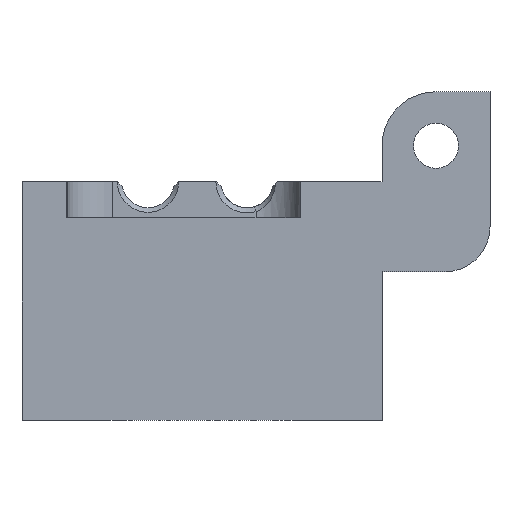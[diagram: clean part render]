
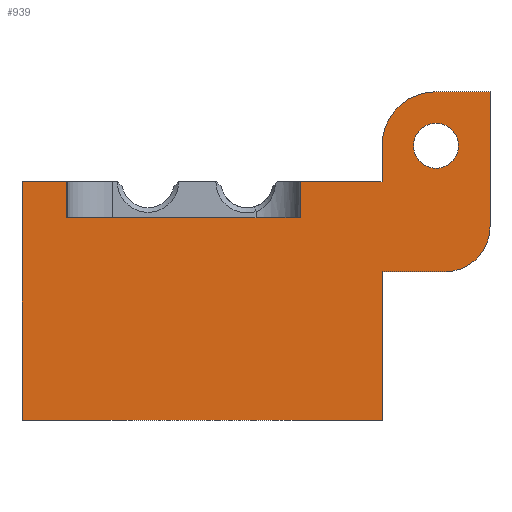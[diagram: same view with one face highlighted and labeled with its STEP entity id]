
A CAD part, left-side view. The second image highlights one B-rep face of the part: STEP entity #939.
In plain terms, the highlighted planar face has unit normal (-1, 0, 0).
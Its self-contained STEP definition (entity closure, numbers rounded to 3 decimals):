
#10 = DIRECTION ( 'NONE',  ( 0., -1., 0. ) ) ;
#58 = CARTESIAN_POINT ( 'NONE',  ( -20., 15., -4. ) ) ;
#63 = VECTOR ( 'NONE', #522, 1000. ) ;
#66 = DIRECTION ( 'NONE',  ( -1., 0., 0. ) ) ;
#67 = DIRECTION ( 'NONE',  ( 0., 0., -1. ) ) ;
#68 = EDGE_CURVE ( 'NONE', #1806, #806, #2099, .T. ) ;
#80 = CARTESIAN_POINT ( 'NONE',  ( -20., 15., -4. ) ) ;
#120 = VERTEX_POINT ( 'NONE', #2115 ) ;
#137 = EDGE_CURVE ( 'NONE', #698, #120, #2403, .T. ) ;
#153 = EDGE_CURVE ( 'NONE', #1839, #806, #821, .T. ) ;
#175 = DIRECTION ( 'NONE',  ( 0., 0., 1. ) ) ;
#179 = FACE_OUTER_BOUND ( 'NONE', #1943, .T. ) ;
#213 = VECTOR ( 'NONE', #1474, 1000. ) ;
#225 = CARTESIAN_POINT ( 'NONE',  ( -20., -32., 10. ) ) ;
#226 = CIRCLE ( 'NONE', #597, 2.5 ) ;
#241 = VERTEX_POINT ( 'NONE', #1318 ) ;
#247 = CARTESIAN_POINT ( 'NONE',  ( -20., 20., -26.5 ) ) ;
#248 = CARTESIAN_POINT ( 'NONE',  ( -20., -26., 4. ) ) ;
#255 = ORIENTED_EDGE ( 'NONE', *, *, #1696, .T. ) ;
#268 = CARTESIAN_POINT ( 'NONE',  ( -20., -20., 10. ) ) ;
#275 = VECTOR ( 'NONE', #67, 1000. ) ;
#280 = EDGE_CURVE ( 'NONE', #1220, #408, #1706, .T. ) ;
#300 = CARTESIAN_POINT ( 'NONE',  ( -20., -32., 10. ) ) ;
#312 = CARTESIAN_POINT ( 'NONE',  ( -20., -32., -10. ) ) ;
#404 = VECTOR ( 'NONE', #2123, 1000. ) ;
#408 = VERTEX_POINT ( 'NONE', #1849 ) ;
#409 = VERTEX_POINT ( 'NONE', #1639 ) ;
#425 = DIRECTION ( 'NONE',  ( 0., -1., 0. ) ) ;
#429 = DIRECTION ( 'NONE',  ( 0., 1., 0. ) ) ;
#431 = EDGE_CURVE ( 'NONE', #1360, #1859, #1561, .T. ) ;
#432 = CARTESIAN_POINT ( 'NONE',  ( -20., 20., 0. ) ) ;
#458 = DIRECTION ( 'NONE',  ( 0., -1., 0. ) ) ;
#464 = CARTESIAN_POINT ( 'NONE',  ( -20., -26., 4. ) ) ;
#470 = LINE ( 'NONE', #484, #404 ) ;
#471 = PLANE ( 'NONE',  #2174 ) ;
#484 = CARTESIAN_POINT ( 'NONE',  ( -20., -11., -4. ) ) ;
#522 = DIRECTION ( 'NONE',  ( 0., 0., 1. ) ) ;
#536 = ORIENTED_EDGE ( 'NONE', *, *, #2464, .T. ) ;
#585 = ORIENTED_EDGE ( 'NONE', *, *, #1652, .F. ) ;
#588 = CARTESIAN_POINT ( 'NONE',  ( -20., 20., -26.5 ) ) ;
#597 = AXIS2_PLACEMENT_3D ( 'NONE', #2428, #1195, #2639 ) ;
#664 = ORIENTED_EDGE ( 'NONE', *, *, #1298, .F. ) ;
#674 = DIRECTION ( 'NONE',  ( 0., 0., -1. ) ) ;
#698 = VERTEX_POINT ( 'NONE', #2167 ) ;
#757 = CARTESIAN_POINT ( 'NONE',  ( -20., 20., 0. ) ) ;
#765 = EDGE_CURVE ( 'NONE', #1935, #241, #2320, .T. ) ;
#806 = VERTEX_POINT ( 'NONE', #1239 ) ;
#820 = LINE ( 'NONE', #247, #1293 ) ;
#821 = LINE ( 'NONE', #1281, #213 ) ;
#877 = CARTESIAN_POINT ( 'NONE',  ( -20., 20., -26.5 ) ) ;
#927 = CARTESIAN_POINT ( 'NONE',  ( -20., -20., -26.5 ) ) ;
#939 = ADVANCED_FACE ( 'NONE', ( #1868, #179 ), #471, .T. ) ;
#964 = CARTESIAN_POINT ( 'NONE',  ( -20., -20., -26.5 ) ) ;
#1067 = VECTOR ( 'NONE', #175, 1000. ) ;
#1070 = ORIENTED_EDGE ( 'NONE', *, *, #137, .T. ) ;
#1085 = DIRECTION ( 'NONE',  ( 0., 0., 1. ) ) ;
#1103 = CARTESIAN_POINT ( 'NONE',  ( -20., 15., -4. ) ) ;
#1171 = CARTESIAN_POINT ( 'NONE',  ( -20., -27., -5. ) ) ;
#1195 = DIRECTION ( 'NONE',  ( 1., 0., 0. ) ) ;
#1215 = AXIS2_PLACEMENT_3D ( 'NONE', #248, #1673, #458 ) ;
#1220 = VERTEX_POINT ( 'NONE', #964 ) ;
#1234 = ORIENTED_EDGE ( 'NONE', *, *, #2645, .T. ) ;
#1239 = CARTESIAN_POINT ( 'NONE',  ( -20., 15., 0. ) ) ;
#1267 = CIRCLE ( 'NONE', #1729, 2.5 ) ;
#1281 = CARTESIAN_POINT ( 'NONE',  ( -20., 20., 0. ) ) ;
#1293 = VECTOR ( 'NONE', #1464, 1000. ) ;
#1298 = EDGE_CURVE ( 'NONE', #1738, #1839, #2092, .T. ) ;
#1315 = VERTEX_POINT ( 'NONE', #2640 ) ;
#1318 = CARTESIAN_POINT ( 'NONE',  ( -20., -32., -5. ) ) ;
#1347 = CARTESIAN_POINT ( 'NONE',  ( -20., -27., -10. ) ) ;
#1349 = ORIENTED_EDGE ( 'NONE', *, *, #68, .T. ) ;
#1360 = VERTEX_POINT ( 'NONE', #300 ) ;
#1423 = VECTOR ( 'NONE', #1709, 1000. ) ;
#1432 = ORIENTED_EDGE ( 'NONE', *, *, #431, .T. ) ;
#1455 = ORIENTED_EDGE ( 'NONE', *, *, #1546, .T. ) ;
#1464 = DIRECTION ( 'NONE',  ( 0., -1., 0. ) ) ;
#1474 = DIRECTION ( 'NONE',  ( 0., -1., 0. ) ) ;
#1482 = VECTOR ( 'NONE', #1085, 1000. ) ;
#1488 = DIRECTION ( 'NONE',  ( 0., -1., 0. ) ) ;
#1491 = VECTOR ( 'NONE', #429, 1000. ) ;
#1506 = CARTESIAN_POINT ( 'NONE',  ( -20., -26., 1.5 ) ) ;
#1524 = LINE ( 'NONE', #432, #2573 ) ;
#1546 = EDGE_CURVE ( 'NONE', #1859, #698, #2496, .T. ) ;
#1561 = LINE ( 'NONE', #225, #1491 ) ;
#1572 = ORIENTED_EDGE ( 'NONE', *, *, #1634, .F. ) ;
#1578 = EDGE_CURVE ( 'NONE', #2117, #2602, #1267, .T. ) ;
#1634 = EDGE_CURVE ( 'NONE', #409, #1315, #470, .T. ) ;
#1639 = CARTESIAN_POINT ( 'NONE',  ( -20., -11., -4. ) ) ;
#1643 = CARTESIAN_POINT ( 'NONE',  ( -20., -20., -10. ) ) ;
#1652 = EDGE_CURVE ( 'NONE', #1806, #409, #1976, .T. ) ;
#1673 = DIRECTION ( 'NONE',  ( -1., 0., 0. ) ) ;
#1686 = ORIENTED_EDGE ( 'NONE', *, *, #2204, .F. ) ;
#1688 = LINE ( 'NONE', #312, #63 ) ;
#1696 = EDGE_CURVE ( 'NONE', #1738, #1220, #820, .T. ) ;
#1706 = LINE ( 'NONE', #927, #2636 ) ;
#1709 = DIRECTION ( 'NONE',  ( 0., -1., 0. ) ) ;
#1729 = AXIS2_PLACEMENT_3D ( 'NONE', #464, #1896, #674 ) ;
#1738 = VERTEX_POINT ( 'NONE', #2101 ) ;
#1806 = VERTEX_POINT ( 'NONE', #80 ) ;
#1810 = ORIENTED_EDGE ( 'NONE', *, *, #280, .T. ) ;
#1834 = CARTESIAN_POINT ( 'NONE',  ( -20., -26., 6.5 ) ) ;
#1839 = VERTEX_POINT ( 'NONE', #757 ) ;
#1843 = ORIENTED_EDGE ( 'NONE', *, *, #765, .T. ) ;
#1849 = CARTESIAN_POINT ( 'NONE',  ( -20., -20., -10. ) ) ;
#1859 = VERTEX_POINT ( 'NONE', #2145 ) ;
#1864 = DIRECTION ( 'NONE',  ( 0., -1., 0. ) ) ;
#1868 = FACE_BOUND ( 'NONE', #2597, .T. ) ;
#1896 = DIRECTION ( 'NONE',  ( 1., 0., 0. ) ) ;
#1915 = ORIENTED_EDGE ( 'NONE', *, *, #153, .F. ) ;
#1935 = VERTEX_POINT ( 'NONE', #1347 ) ;
#1943 = EDGE_LOOP ( 'NONE', ( #1432, #1455, #1070, #1686, #1572, #585, #1349, #1915, #664, #255, #1810, #1234, #1843, #2244 ) ) ;
#1949 = LINE ( 'NONE', #1643, #2446 ) ;
#1976 = LINE ( 'NONE', #1103, #1423 ) ;
#2086 = DIRECTION ( 'NONE',  ( -1., 0., 0. ) ) ;
#2092 = LINE ( 'NONE', #588, #1067 ) ;
#2099 = LINE ( 'NONE', #58, #1482 ) ;
#2101 = CARTESIAN_POINT ( 'NONE',  ( -20., 20., -26.5 ) ) ;
#2115 = CARTESIAN_POINT ( 'NONE',  ( -20., -20., 0. ) ) ;
#2117 = VERTEX_POINT ( 'NONE', #1506 ) ;
#2123 = DIRECTION ( 'NONE',  ( 0., 0., 1. ) ) ;
#2129 = ORIENTED_EDGE ( 'NONE', *, *, #1578, .T. ) ;
#2145 = CARTESIAN_POINT ( 'NONE',  ( -20., -26., 10. ) ) ;
#2167 = CARTESIAN_POINT ( 'NONE',  ( -20., -20., 4. ) ) ;
#2174 = AXIS2_PLACEMENT_3D ( 'NONE', #877, #66, #1488 ) ;
#2204 = EDGE_CURVE ( 'NONE', #1315, #120, #1524, .T. ) ;
#2244 = ORIENTED_EDGE ( 'NONE', *, *, #2270, .T. ) ;
#2270 = EDGE_CURVE ( 'NONE', #241, #1360, #1688, .T. ) ;
#2320 = CIRCLE ( 'NONE', #2652, 5. ) ;
#2362 = DIRECTION ( 'NONE',  ( 0., 0., 1. ) ) ;
#2403 = LINE ( 'NONE', #268, #275 ) ;
#2428 = CARTESIAN_POINT ( 'NONE',  ( -20., -26., 4. ) ) ;
#2446 = VECTOR ( 'NONE', #425, 1000. ) ;
#2464 = EDGE_CURVE ( 'NONE', #2602, #2117, #226, .T. ) ;
#2496 = CIRCLE ( 'NONE', #1215, 6. ) ;
#2573 = VECTOR ( 'NONE', #1864, 1000. ) ;
#2597 = EDGE_LOOP ( 'NONE', ( #2129, #536 ) ) ;
#2602 = VERTEX_POINT ( 'NONE', #1834 ) ;
#2636 = VECTOR ( 'NONE', #2362, 1000. ) ;
#2639 = DIRECTION ( 'NONE',  ( 0., 0., -1. ) ) ;
#2640 = CARTESIAN_POINT ( 'NONE',  ( -20., -11., 0. ) ) ;
#2645 = EDGE_CURVE ( 'NONE', #408, #1935, #1949, .T. ) ;
#2652 = AXIS2_PLACEMENT_3D ( 'NONE', #1171, #2086, #10 ) ;
